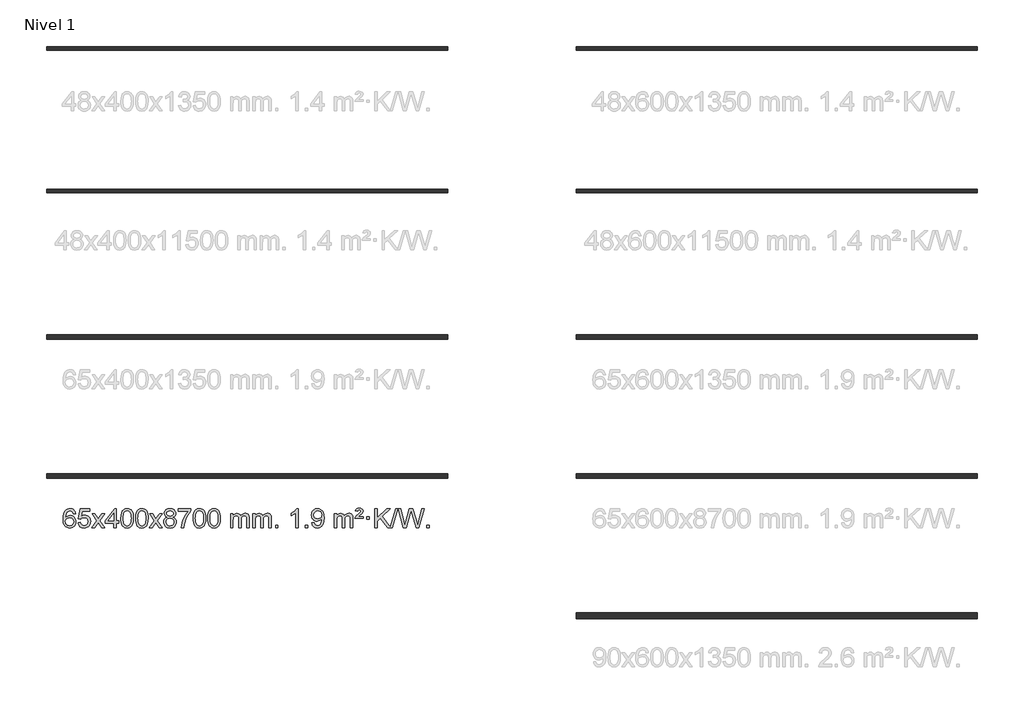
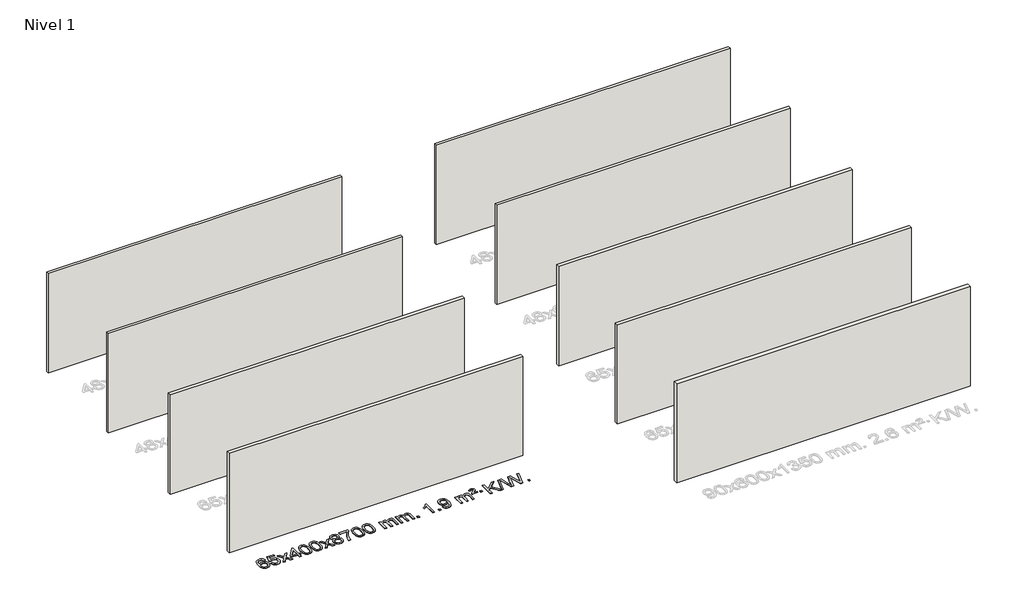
# One storey, part 1 of 10: 9 walls, 1 proxy.
"""IFC4 building model written with IfcOpenShell, lengths in millimetres."""

import ifcopenshell
import ifcopenshell.guid

model = None  # the IFC model being written
_history = None  # IfcOwnerHistory: only IFC2X3 demands one
_inside = {}  # id of a spatial element -> (the spatial element, [elements in it])
_under = {}  # id of a project, library or spatial element -> (it, [spatial elements below it])
_declared = {}  # id of a project -> (the project, [libraries it declares])
_typed = {}  # id of a type object -> (the type object, [elements of that type])
_made_of = {}  # id of a material, layer set ... -> (it, [elements and type objects made of it])


def new_model(schema):
    """Start an empty IFC model of exactly this schema.

    Asked for "IFC4X3", IfcOpenShell would pick the latest addendum, in which some entities
    have other attributes; the version numbers below select the first issue.
    IFC2X3 requires an IfcOwnerHistory on every rooted entity: one is made here for all.
    """
    global model, _history
    if schema == "IFC4X3":
        model = ifcopenshell.file(schema_version=(4, 3, 0, 0))
    else:
        model = ifcopenshell.file(schema=schema)
    _inside.clear()
    _under.clear()
    _declared.clear()
    _typed.clear()
    _made_of.clear()
    _history = None
    if model.schema == "IFC2X3":
        org = make("IfcOrganization", Name="unknown")
        user = make(
            "IfcPersonAndOrganization",
            ThePerson=make("IfcPerson", FamilyName="unknown"),
            TheOrganization=org,
        )
        app = make(
            "IfcApplication",
            ApplicationDeveloper=org,
            Version="unknown",
            ApplicationFullName="unknown",
            ApplicationIdentifier="unknown",
        )
        _history = make(
            "IfcOwnerHistory",
            OwningUser=user,
            OwningApplication=app,
            ChangeAction="ADDED",
            CreationDate=0,
        )
    return model


def make(cls, **values):
    """One entity of the class cls with the attributes given. An attribute that is None is left unset."""
    return model.create_entity(
        cls, **{name: value for name, value in values.items() if value is not None}
    )


def rooted(cls, **values):
    """An entity with a GlobalId (a new one), such as an element, a storey or a relation."""
    return make(cls, GlobalId=ifcopenshell.guid.new(), OwnerHistory=_history, **values)


def si_unit(unit_type, name, prefix=None):
    """IfcSIUnit, for example si_unit("LENGTHUNIT", "METRE", prefix="MILLI")."""
    return make("IfcSIUnit", UnitType=unit_type, Prefix=prefix, Name=name)


def assignment(units):
    """IfcUnitAssignment: the units of a project."""
    return None if units is None else make("IfcUnitAssignment", Units=units)


def point(xyz):
    """IfcCartesianPoint."""
    return None if xyz is None else make("IfcCartesianPoint", Coordinates=xyz)


def direction(xyz):
    """IfcDirection."""
    return None if xyz is None else make("IfcDirection", DirectionRatios=xyz)


def frame(location, z_axis=None, x_axis=None):
    """IfcAxis2Placement3D, a coordinate frame: its origin and axes. An axis left out is left unset."""
    return make(
        "IfcAxis2Placement3D",
        Location=point(location),
        Axis=direction(z_axis),
        RefDirection=direction(x_axis),
    )


def origin():
    """The frame at (0, 0, 0) with its axes left unset."""
    return frame((0.0, 0.0, 0.0))


def origin_with_axes():
    """The frame at (0, 0, 0) with the z axis (0, 0, 1) and the x axis (1, 0, 0) written out."""
    return frame((0.0, 0.0, 0.0), z_axis=(0.0, 0.0, 1.0), x_axis=(1.0, 0.0, 0.0))


def place(relative_to, where):
    """IfcLocalPlacement: puts the frame where relative to a parent placement (None: the world)."""
    return make(
        "IfcLocalPlacement", PlacementRelTo=relative_to, RelativePlacement=where
    )


def context(
    kind, dimensions, precision=None, world=None, true_north=None, identifier=None
):
    """IfcGeometricRepresentationContext, for example the 3D "Model" context."""
    return make(
        "IfcGeometricRepresentationContext",
        ContextIdentifier=identifier,
        ContextType=kind,
        CoordinateSpaceDimension=dimensions,
        Precision=precision,
        WorldCoordinateSystem=world,
        TrueNorth=true_north,
    )


def project(units=None, contexts=None):
    """IfcProject with its units and contexts."""
    return rooted(
        "IfcProject",
        Name="project",
        RepresentationContexts=contexts,
        UnitsInContext=assignment(units),
    )


def spatial(cls, under=None, at=None, **own):
    """A site, building, storey or space (cls), placed at a placement, below another one or the project."""
    s = rooted(cls, ObjectPlacement=at, **own)
    if under is not None:
        _under.setdefault(under.id(), (under, []))[1].append(s)
    return s


def polyline(points):
    """IfcPolyline through the points."""
    return make("IfcPolyline", Points=[point(p) for p in points])


def outline(outer, holes=None, kind="AREA"):
    """IfcArbitraryClosedProfileDef: a profile drawn as a closed curve; with holes, ...WithVoids."""
    if holes is None:
        return make("IfcArbitraryClosedProfileDef", ProfileType=kind, OuterCurve=outer)
    return make(
        "IfcArbitraryProfileDefWithVoids",
        ProfileType=kind,
        OuterCurve=outer,
        InnerCurves=holes,
    )


def extrude(swept, where, along, depth):
    """IfcExtrudedAreaSolid: the profile swept, set in the frame where, extruded along a direction by depth."""
    return make(
        "IfcExtrudedAreaSolid",
        SweptArea=swept,
        Position=where,
        ExtrudedDirection=direction(along),
        Depth=depth,
    )


def shape(context_of_items, identifier, shape_type, items):
    """IfcShapeRepresentation: the items that make up one representation, for example the "Body"."""
    return make(
        "IfcShapeRepresentation",
        ContextOfItems=context_of_items,
        RepresentationIdentifier=identifier,
        RepresentationType=shape_type,
        Items=items,
    )


def made_of(thing, what):
    """Note that an element or type object is made of a material, layer set ...; save() writes the relation."""
    if what is not None:
        _made_of.setdefault(what.id(), (what, []))[1].append(thing)
    return thing


def element(
    cls,
    number,
    at=None,
    inside=None,
    cuts=None,
    type_object=None,
    material=None,
    context=None,
    identifier="Body",
    shape_type=None,
    held_by="IfcProductDefinitionShape",
    body=None,
    shapes=None,
    **own,
):
    """One element of the class cls, such as IfcWall. Its Tag is "e" and its number.

    at: its placement. inside: the storey or other place that contains it. cuts: it is an
    opening in that element (IfcRelVoidsElement). A single representation is given by context,
    identifier, shape_type and body (its items); several are given by shapes. held_by: the class
    of the entity that holds the representations. save() writes the other relations.
    """
    e = rooted(cls, Tag="e%d" % number, ObjectPlacement=at, **own)
    if body is not None:
        shapes = [shape(context, identifier, shape_type, body)]
    if shapes is not None:
        e.Representation = make(held_by, Representations=shapes)
    if inside is not None:
        _inside.setdefault(inside.id(), (inside, []))[1].append(e)
    if cuts is not None:
        rooted(
            "IfcRelVoidsElement", RelatingBuildingElement=cuts, RelatedOpeningElement=e
        )
    if type_object is not None:
        _typed.setdefault(type_object.id(), (type_object, []))[1].append(e)
    return made_of(e, material)


def aggregate(whole, parts):
    """IfcRelAggregates: a whole, such as a stair, and the parts it consists of."""
    return rooted("IfcRelAggregates", RelatingObject=whole, RelatedObjects=parts)


def save(model, path):
    """Write the relations noted so far, then the file.

    IfcRelAggregates (storeys below a building ...), IfcRelContainedInSpatialStructure (elements
    in a storey), IfcRelDefinesByType, IfcRelAssociatesMaterial and IfcRelDeclares: one each for
    every whole, place, type object, material and project.
    """
    for whole, parts in _under.values():
        aggregate(whole, parts)
    for where, things in _inside.values():
        rooted(
            "IfcRelContainedInSpatialStructure",
            RelatedElements=things,
            RelatingStructure=where,
        )
    for kind, things in _typed.values():
        rooted("IfcRelDefinesByType", RelatedObjects=things, RelatingType=kind)
    for what, things in _made_of.values():
        rooted("IfcRelAssociatesMaterial", RelatedObjects=things, RelatingMaterial=what)
    for by, libraries in _declared.values():
        rooted("IfcRelDeclares", RelatingContext=by, RelatedDefinitions=libraries)
    model.write(path)


model = new_model("IFC4")

# Units and contexts
model_context = context("Model", 3, world=origin())
ifc_project = project(units=[si_unit("LENGTHUNIT", "METRE", prefix="MILLI")], contexts=[model_context])

# Site, building, storey
site = spatial("IfcSite", under=ifc_project)
building = spatial("IfcBuilding", under=site)
storey = spatial("IfcBuildingStorey", under=building, Name="Nivel 1", Elevation=0.0)

# Proxy
placement = place(None, origin())
element("IfcBuildingElementProxy", 1, Name="Texto de modelo 1", ObjectType="Texto de modelo 1", at=placement, inside=storey, context=model_context, shape_type="SweptSolid", body=[
    extrude(outline(polyline([(-24968.7310862, 6007.5109581), (-25018.9592412, 6001.2324387), (-25027.0526451, 6026.125787), (-25037.9910031, 6043.1219352), (-25060.7751614, 6058.7937082), (-25088.3172601, 6064.0176325), (-25111.665504, 6060.9764747), (-25133.6403219, 6051.8530012), (-25152.5126682, 6032.6372983), (-25167.9269238, 6006.1865829), (-25178.3379843, 5968.772984), (-25182.2007452, 5916.6686307), (-25162.0530746, 5940.1762902), (-25137.907753, 5956.7432427), (-25111.113681, 5966.565692), (-25083.0197593, 5969.8398418), (-25058.8867005, 5967.601893), (-25036.617577, 5960.8880466), (-25016.212389, 5949.6983025), (-24997.6711365, 5934.0326609), (-24982.2630122, 5914.8230894), (-24971.2572092, 5893.0015557), (-24964.6537274, 5868.5680599), (-24962.4525668, 5841.5226018), (-24966.5973706, 5805.5560055), (-24979.031782, 5772.213634), (-24998.7257315, 5743.9357713), (-25024.6491494, 5723.1627013), (-25055.6248134, 5710.397196), (-25090.4755011, 5706.1420276), (-25120.4180298, 5708.9624563), (-25147.4604222, 5717.4237421), (-25171.6026781, 5731.5258853), (-25192.8447976, 5751.2688857), (-25210.1628426, 5777.4866092), (-25222.5328746, 5811.0129217), (-25229.9548939, 5851.8478232), (-25232.4289003, 5899.9913136), (-25229.6820481, 5953.9657337), (-25221.4414914, 6000.0306908), (-25207.7072302, 6038.1861851), (-25188.4792646, 6068.4322165), (-25167.6387496, 6088.4756538), (-25143.4750339, 6102.7923948), (-25115.9881175, 6111.3824394), (-25085.1780004, 6114.2457876), (-25062.0443542, 6112.4738227), (-25041.1057374, 6107.1579278), (-25022.3621497, 6098.2981031), (-25005.8135913, 6085.8943485), (-24991.9076519, 6070.3635969), (-24981.0919212, 6052.1227814), (-24973.3663993, 6031.1719017), (-24968.7310862, 6007.5109581)]), holes=[polyline([(-25182.2007452, 5842.3074168), (-25179.2944775, 5820.0505561), (-25170.5756742, 5798.7992395), (-25157.0376168, 5780.527767), (-25139.6735866, 5767.2104388), (-25118.7165756, 5759.0802467), (-25094.3995757, 5756.3701827), (-25061.253408, 5761.9865145), (-25047.3382715, 5769.0069292), (-25035.1951, 5778.8355099), (-25025.3450595, 5791.0737176), (-25018.3093164, 5805.3230135), (-25012.6807219, 5839.8548701), (-25018.23574, 5873.0010379), (-25025.1795126, 5886.6218688), (-25034.9007944, 5898.274531), (-25047.0807541, 5907.6095366), (-25061.4005608, 5914.2773978), (-25096.4597149, 5919.6116867), (-25129.5568317, 5914.2773978), (-25157.2338205, 5898.274531), (-25168.1568501, 5886.7751529), (-25175.9590141, 5873.6141746), (-25180.6403124, 5858.7915958), (-25182.2007452, 5842.3074168)])]), origin_with_axes(), (0.0, 0.0, 1.0), 10.0),
    extrude(outline(polyline([(-24918.5029311, 5819.1553765), (-24868.274776, 5825.4338959), (-24859.0532007, 5795.2798351), (-24842.9644948, 5773.6851619), (-24820.0822347, 5760.6989275), (-24790.4799968, 5756.3701827), (-24771.350133, 5757.8754332), (-24754.4766122, 5762.3911847), (-24739.8594342, 5769.9174372), (-24727.4985992, 5780.4541906), (-24717.6700186, 5793.480279), (-24710.6496038, 5808.4745359), (-24705.033272, 5844.3675559), (-24710.2939846, 5878.1636486), (-24716.8698752, 5892.0818507), (-24726.0761222, 5904.0134901), (-24737.9433822, 5913.5845533), (-24752.5023121, 5920.4210271), (-24789.6951819, 5925.8902061), (-24814.0612327, 5923.7074396), (-24833.7919703, 5917.1591401), (-24849.5495825, 5907.1282243), (-24861.9962566, 5894.4976092), (-24912.2244117, 5900.7761285), (-24868.274776, 6107.9672682), (-24673.6406751, 6107.9672682), (-24673.6406751, 6057.7391131), (-24827.6606038, 6057.7391131), (-24849.1449123, 5947.080209), (-24831.4191315, 5959.7844006), (-24813.264155, 5968.8588231), (-24794.6799829, 5974.3034766), (-24775.6666151, 5976.1183612), (-24751.2055281, 5973.8681496), (-24728.7371353, 5967.117515), (-24708.2614365, 5955.8664573), (-24689.778432, 5940.1149766), (-24674.4776066, 5920.8256973), (-24663.5484457, 5898.961244), (-24656.9909491, 5874.5216168), (-24654.805117, 5847.5068156), (-24656.7732856, 5821.4852958), (-24662.6777917, 5797.2786606), (-24672.518635, 5774.8869098), (-24686.2958157, 5754.3100435), (-24707.1669876, 5733.2365366), (-24731.5207757, 5718.1840316), (-24759.35718, 5709.1525286), (-24790.6762005, 5706.1420276), (-24816.5965528, 5708.0764738), (-24840.0091761, 5713.8798123), (-24860.9140704, 5723.552043), (-24879.3112359, 5737.0931662), (-24894.6181926, 5753.8287312), (-24906.2524607, 5773.084288), (-24914.2140402, 5794.8598364), (-24918.5029311, 5819.1553765)])), origin_with_axes(), (0.0, 0.0, 1.0), 10.0),
    extrude(outline(polyline([(-24629.6910394, 5712.420547), (-24522.3675987, 5860.7505675), (-24623.41252, 6007.5109581), (-24562.981771, 6007.5109581), (-24514.2251439, 5936.877615), (-24491.4655111, 5903.5229808), (-24471.7470362, 5930.7952993), (-24416.2213804, 6007.5109581), (-24355.7906313, 6007.5109581), (-24461.9368496, 5860.7505675), (-24359.7147059, 5712.420547), (-24420.145455, 5712.420547), (-24481.6553246, 5801.5951426), (-24492.9370391, 5817.8800523), (-24569.2602903, 5712.420547), (-24629.6910394, 5712.420547)])), origin_with_axes(), (0.0, 0.0, 1.0), 10.0),
    extrude(outline(polyline([(-24165.080605, 5712.420547), (-24165.080605, 5806.5983378), (-24347.1576671, 5806.5983378), (-24347.1576671, 5856.8264928), (-24152.5235662, 6107.9672682), (-24114.8524499, 6107.9672682), (-24114.8524499, 5856.8264928), (-24064.6242948, 5856.8264928), (-24064.6242948, 5806.5983378), (-24114.8524499, 5806.5983378), (-24114.8524499, 5712.420547), (-24165.080605, 5712.420547)]), holes=[polyline([(-24165.080605, 5856.8264928), (-24165.080605, 6012.0236439), (-24285.3534919, 5856.8264928), (-24165.080605, 5856.8264928)])]), origin_with_axes(), (0.0, 0.0, 1.0), 10.0),
    extrude(outline(polyline([(-24020.6746591, 5910.0958057), (-24016.9835765, 5974.4138412), (-24005.9103284, 6025.7088541), (-23987.5652796, 6064.7656593), (-23975.7072166, 6079.9990395), (-23962.0587946, 6092.3690716), (-23946.5740283, 6101.9401349), (-23929.2069324, 6108.7766086), (-23888.8257521, 6114.2457876), (-23857.8746135, 6111.008426), (-23830.1608366, 6101.2963414), (-23806.9842709, 6085.4896783), (-23789.6447662, 6063.9685816), (-23776.5481671, 6036.9169922), (-23766.1003185, 6004.5188512), (-23759.2577134, 5963.3773814), (-23756.976845, 5910.0958057), (-23760.6311395, 5846.1456523), (-23771.5940229, 5794.9732667), (-23789.8287072, 5755.8796734), (-23801.659179, 5740.6003078), (-23815.298404, 5728.1658964), (-23830.8015644, 5718.5304538), (-23848.2238425, 5711.6479948), (-23888.8257521, 5706.1420276), (-23916.4904781, 5708.5332606), (-23941.0159444, 5715.7069595), (-23962.4021511, 5727.6631243), (-23980.6490981, 5744.4017551), (-23998.160281, 5774.6600492), (-24010.6682689, 5812.3618224), (-24018.1730616, 5857.5070745), (-24020.6746591, 5910.0958057)]), holes=[polyline([(-23970.4465041, 5910.1939076), (-23968.9749761, 5866.5293805), (-23964.5603921, 5831.1851178), (-23957.2027522, 5804.1611196), (-23946.9020564, 5785.4573858), (-23934.4431195, 5772.7317344), (-23920.6107564, 5763.6419835), (-23905.4049673, 5758.1881329), (-23888.8257521, 5756.3701827), (-23872.2465368, 5758.1942643), (-23857.0407477, 5763.6665089), (-23843.2083847, 5772.7869167), (-23830.7494478, 5785.5554876), (-23820.4487519, 5804.2898783), (-23813.091112, 5831.3077451), (-23808.676528, 5866.6090882), (-23807.2050001, 5910.1939076), (-23808.6274771, 5952.7026722), (-23812.8949083, 5987.4246011), (-23820.0072935, 6014.3596945), (-23829.9646328, 6033.5079524), (-23842.2151033, 6046.8559375), (-23856.2068818, 6056.3902125), (-23871.9399685, 6062.1107775), (-23889.4143633, 6064.0176325), (-23905.9077394, 6062.3376381), (-23920.8560111, 6057.2976548), (-23934.2591785, 6048.8976825), (-23946.1172414, 6037.1377214), (-23956.7612938, 6016.291075), (-23964.3641884, 5988.1848906), (-23968.9259251, 5952.8191681), (-23970.4465041, 5910.1939076)])]), origin_with_axes(), (0.0, 0.0, 1.0), 10.0),
    extrude(outline(polyline([(-23713.0272093, 5910.0958057), (-23709.3361266, 5974.4138412), (-23698.2628786, 6025.7088541), (-23679.9178297, 6064.7656593), (-23668.0597668, 6079.9990395), (-23654.4113447, 6092.3690716), (-23638.9265784, 6101.9401349), (-23621.5594826, 6108.7766086), (-23581.1783022, 6114.2457876), (-23550.2271637, 6111.008426), (-23522.5133867, 6101.2963414), (-23499.336821, 6085.4896783), (-23481.9973163, 6063.9685816), (-23468.9007173, 6036.9169922), (-23458.4528686, 6004.5188512), (-23451.6102635, 5963.3773814), (-23449.3293952, 5910.0958057), (-23452.9836896, 5846.1456523), (-23463.9465731, 5794.9732667), (-23482.1812573, 5755.8796734), (-23494.0117292, 5740.6003078), (-23507.6509541, 5728.1658964), (-23523.1541145, 5718.5304538), (-23540.5763927, 5711.6479948), (-23581.1783022, 5706.1420276), (-23608.8430283, 5708.5332606), (-23633.3684946, 5715.7069595), (-23654.7547013, 5727.6631243), (-23673.0016482, 5744.4017551), (-23690.5128312, 5774.6600492), (-23703.020819, 5812.3618224), (-23710.5256117, 5857.5070745), (-23713.0272093, 5910.0958057)]), holes=[polyline([(-23662.7990542, 5910.1939076), (-23661.3275262, 5866.5293805), (-23656.9129423, 5831.1851178), (-23649.5553024, 5804.1611196), (-23639.2546065, 5785.4573858), (-23626.7956696, 5772.7317344), (-23612.9633066, 5763.6419835), (-23597.7575175, 5758.1881329), (-23581.1783022, 5756.3701827), (-23564.599087, 5758.1942643), (-23549.3932978, 5763.6665089), (-23535.5609348, 5772.7869167), (-23523.1019979, 5785.5554876), (-23512.8013021, 5804.2898783), (-23505.4436622, 5831.3077451), (-23501.0290782, 5866.6090882), (-23499.5575502, 5910.1939076), (-23500.9800273, 5952.7026722), (-23505.2474584, 5987.4246011), (-23512.3598437, 6014.3596945), (-23522.317183, 6033.5079524), (-23534.5676534, 6046.8559375), (-23548.559432, 6056.3902125), (-23564.2925187, 6062.1107775), (-23581.7669134, 6064.0176325), (-23598.2602895, 6062.3376381), (-23613.2085613, 6057.2976548), (-23626.6117286, 6048.8976825), (-23638.4697916, 6037.1377214), (-23649.113844, 6016.291075), (-23656.7167386, 5988.1848906), (-23661.2784753, 5952.8191681), (-23662.7990542, 5910.1939076)])]), origin_with_axes(), (0.0, 0.0, 1.0), 10.0),
    extrude(outline(polyline([(-23424.2153176, 5712.420547), (-23316.8918769, 5860.7505675), (-23417.9367982, 6007.5109581), (-23357.5060492, 6007.5109581), (-23308.7494221, 5936.877615), (-23285.9897893, 5903.5229808), (-23266.2713144, 5930.7952993), (-23210.7456586, 6007.5109581), (-23150.3149095, 6007.5109581), (-23256.4611278, 5860.7505675), (-23154.2389841, 5712.420547), (-23214.6697332, 5712.420547), (-23276.1796028, 5801.5951426), (-23287.4613173, 5817.8800523), (-23363.7845685, 5712.420547), (-23424.2153176, 5712.420547)])), origin_with_axes(), (0.0, 0.0, 1.0), 10.0),
    extrude(outline(polyline([(-23049.6623956, 5933.7383553), (-23076.5545694, 5946.9821071), (-23095.4269158, 5964.9347485), (-23106.5737403, 5987.2283974), (-23110.2893484, 6013.4951719), (-23108.2659974, 6033.9800676), (-23102.1959445, 6052.7604435), (-23092.0791896, 6069.8362994), (-23077.9157328, 6085.2076355), (-23060.3861558, 6097.911827), (-23040.1710401, 6106.9862496), (-23017.2703859, 6112.4309031), (-22991.6841932, 6114.2457876), (-22965.9753731, 6112.3879835), (-22942.9030406, 6106.8145713), (-22922.4671958, 6097.5255509), (-22904.6678386, 6084.5209224), (-22890.2468644, 6068.8491494), (-22879.9461685, 6051.5586956), (-22873.765751, 6032.6495611), (-22871.7056118, 6012.1217457), (-22875.372169, 5986.7010999), (-22886.3718407, 5964.7875957), (-22904.8272541, 5946.9453189), (-22930.8610366, 5933.7383553), (-22899.9466863, 5917.8090649), (-22877.4445709, 5894.3504564), (-22863.7225725, 5864.4907011), (-22859.148573, 5829.3579705), (-22861.4171787, 5804.3052067), (-22868.2229956, 5781.3371074), (-22879.5660238, 5760.4536728), (-22895.4462632, 5741.6549029), (-22915.0298481, 5726.11802), (-22937.4829125, 5715.0202464), (-22962.8054565, 5708.3615823), (-22990.9974801, 5706.1420276), (-23019.1895037, 5708.3707794), (-23044.5120477, 5715.0570346), (-23066.9651121, 5726.2007934), (-23086.548697, 5741.8020557), (-23102.4289364, 5760.73265), (-23113.7719646, 5781.864405), (-23120.5777815, 5805.1973205), (-23122.8463872, 5830.7313967), (-23118.0884467, 5867.2252906), (-23103.8146253, 5897.2444614), (-23080.7606869, 5919.7588395), (-23049.6623956, 5933.7383553)]), holes=[polyline([(-23072.6182321, 5832.4972302), (-23070.5213047, 5813.2815274), (-23064.2305226, 5794.6789611), (-23052.6177143, 5778.4553651), (-23034.5547083, 5766.376573), (-23012.923247, 5758.8717803), (-22990.6050726, 5756.3701827), (-22956.4165726, 5761.6308952), (-22942.5228959, 5768.2067859), (-22930.7629348, 5777.4130328), (-22914.7232798, 5801.3130998), (-22909.3767281, 5830.9276004), (-22914.894958, 5861.0448731), (-22931.4496478, 5885.4722375), (-22943.52844, 5894.9145421), (-22957.6918968, 5901.6590453), (-22992.2728044, 5907.0546479), (-23025.9830578, 5901.7326217), (-23039.7203847, 5895.080089), (-23051.3791782, 5885.7665431), (-23067.3084686, 5861.8051625), (-23072.6182321, 5832.4972302)]), polyline([(-23060.0611933, 6012.0236439), (-23055.6098212, 5990.097877), (-23042.2557048, 5972.586694), (-23020.3912515, 5961.1087757), (-22990.4088689, 5957.282803), (-22961.1254621, 5961.0842503), (-22939.5921026, 5972.4885921), (-22926.3483508, 5989.4111639), (-22921.9337669, 6009.767301), (-22926.4955036, 6030.8959902), (-22940.1807138, 6048.370385), (-22962.0083789, 6060.1058206), (-22990.9974801, 6064.0176325), (-23020.1705223, 6060.1916598), (-23041.9613992, 6048.7137415), (-23055.5362448, 6031.8892716), (-23060.0611933, 6012.0236439)])]), origin_with_axes(), (0.0, 0.0, 1.0), 10.0),
    extrude(outline(polyline([(-22815.1989373, 6057.7391131), (-22815.1989373, 6107.9672682), (-22551.5011232, 6107.9672682), (-22551.5011232, 6067.353096), (-22589.0864004, 6019.785954), (-22626.3037956, 5959.2938912), (-22659.1311323, 5891.3951377), (-22683.546234, 5821.6079232), (-22695.5146616, 5769.3932053), (-22702.1855884, 5712.420547), (-22752.4137435, 5712.420547), (-22746.9813527, 5764.1938065), (-22732.4500139, 5825.7282015), (-22709.2121345, 5890.9536793), (-22677.6601221, 5953.8001868), (-22640.8228716, 6010.6134296), (-22601.7292783, 6057.7391131), (-22815.1989373, 6057.7391131)])), origin_with_axes(), (0.0, 0.0, 1.0), 10.0),
    extrude(outline(polyline([(-22507.5514875, 5910.0958057), (-22503.8604048, 5974.4138412), (-22492.7871568, 6025.7088541), (-22474.4421079, 6064.7656593), (-22462.584045, 6079.9990395), (-22448.9356229, 6092.3690716), (-22433.4508566, 6101.9401349), (-22416.0837608, 6108.7766086), (-22375.7025804, 6114.2457876), (-22344.7514419, 6111.008426), (-22317.0376649, 6101.2963414), (-22293.8610992, 6085.4896783), (-22276.5215945, 6063.9685816), (-22263.4249955, 6036.9169922), (-22252.9771468, 6004.5188512), (-22246.1345417, 5963.3773814), (-22243.8536734, 5910.0958057), (-22247.5079679, 5846.1456523), (-22258.4708513, 5794.9732667), (-22276.7055355, 5755.8796734), (-22288.5360074, 5740.6003078), (-22302.1752323, 5728.1658964), (-22317.6783927, 5718.5304538), (-22335.1006709, 5711.6479948), (-22375.7025804, 5706.1420276), (-22403.3673065, 5708.5332606), (-22427.8927728, 5715.7069595), (-22449.2789795, 5727.6631243), (-22467.5259264, 5744.4017551), (-22485.0371094, 5774.6600492), (-22497.5450972, 5812.3618224), (-22505.0498899, 5857.5070745), (-22507.5514875, 5910.0958057)]), holes=[polyline([(-22457.3233324, 5910.1939076), (-22455.8518045, 5866.5293805), (-22451.4372205, 5831.1851178), (-22444.0795806, 5804.1611196), (-22433.7788847, 5785.4573858), (-22421.3199478, 5772.7317344), (-22407.4875848, 5763.6419835), (-22392.2817957, 5758.1881329), (-22375.7025804, 5756.3701827), (-22359.1233652, 5758.1942643), (-22343.9175761, 5763.6665089), (-22330.085213, 5772.7869167), (-22317.6262761, 5785.5554876), (-22307.3255803, 5804.2898783), (-22299.9679404, 5831.3077451), (-22295.5533564, 5866.6090882), (-22294.0818284, 5910.1939076), (-22295.5043055, 5952.7026722), (-22299.7717366, 5987.4246011), (-22306.8841219, 6014.3596945), (-22316.8414612, 6033.5079524), (-22329.0919316, 6046.8559375), (-22343.0837102, 6056.3902125), (-22358.8167969, 6062.1107775), (-22376.2911916, 6064.0176325), (-22392.7845677, 6062.3376381), (-22407.7328395, 6057.2976548), (-22421.1360068, 6048.8976825), (-22432.9940698, 6037.1377214), (-22443.6381222, 6016.291075), (-22451.2410168, 5988.1848906), (-22455.8027535, 5952.8191681), (-22457.3233324, 5910.1939076)])]), origin_with_axes(), (0.0, 0.0, 1.0), 10.0),
    extrude(outline(polyline([(-22199.9040377, 5910.0958057), (-22196.212955, 5974.4138412), (-22185.1397069, 6025.7088541), (-22166.7946581, 6064.7656593), (-22154.9365951, 6079.9990395), (-22141.2881731, 6092.3690716), (-22125.8034068, 6101.9401349), (-22108.4363109, 6108.7766086), (-22068.0551306, 6114.2457876), (-22037.1039921, 6111.008426), (-22009.3902151, 6101.2963414), (-21986.2136494, 6085.4896783), (-21968.8741447, 6063.9685816), (-21955.7775457, 6036.9169922), (-21945.329697, 6004.5188512), (-21938.4870919, 5963.3773814), (-21936.2062235, 5910.0958057), (-21939.860518, 5846.1456523), (-21950.8234015, 5794.9732667), (-21969.0580857, 5755.8796734), (-21980.8885575, 5740.6003078), (-21994.5277825, 5728.1658964), (-22010.0309429, 5718.5304538), (-22027.4532211, 5711.6479948), (-22068.0551306, 5706.1420276), (-22095.7198566, 5708.5332606), (-22120.245323, 5715.7069595), (-22141.6315296, 5727.6631243), (-22159.8784766, 5744.4017551), (-22177.3896596, 5774.6600492), (-22189.8976474, 5812.3618224), (-22197.4024401, 5857.5070745), (-22199.9040377, 5910.0958057)]), holes=[polyline([(-22149.6758826, 5910.1939076), (-22148.2043546, 5866.5293805), (-22143.7897707, 5831.1851178), (-22136.4321308, 5804.1611196), (-22126.1314349, 5785.4573858), (-22113.672498, 5772.7317344), (-22099.840135, 5763.6419835), (-22084.6343459, 5758.1881329), (-22068.0551306, 5756.3701827), (-22051.4759154, 5758.1942643), (-22036.2701262, 5763.6665089), (-22022.4377632, 5772.7869167), (-22009.9788263, 5785.5554876), (-21999.6781304, 5804.2898783), (-21992.3204905, 5831.3077451), (-21987.9059066, 5866.6090882), (-21986.4343786, 5910.1939076), (-21987.8568557, 5952.7026722), (-21992.1242868, 5987.4246011), (-21999.236672, 6014.3596945), (-22009.1940114, 6033.5079524), (-22021.4444818, 6046.8559375), (-22035.4362604, 6056.3902125), (-22051.169347, 6062.1107775), (-22068.6437418, 6064.0176325), (-22085.1371179, 6062.3376381), (-22100.0853897, 6057.2976548), (-22113.488557, 6048.8976825), (-22125.34662, 6037.1377214), (-22135.9906724, 6016.291075), (-22143.5935669, 5988.1848906), (-22148.1553037, 5952.8191681), (-22149.6758826, 5910.1939076)])]), origin_with_axes(), (0.0, 0.0, 1.0), 10.0),
    extrude(outline(polyline([(-21722.7365645, 5712.420547), (-21722.7365645, 6007.5109581), (-21672.5084094, 6007.5109581), (-21672.5084094, 5958.9505347), (-21657.4007221, 5981.2564463), (-21637.9765528, 5998.7308411), (-21614.8980889, 6010.0248184), (-21588.8275182, 6013.7894775), (-21560.8930121, 6009.951242), (-21538.5012613, 5998.4365355), (-21521.7748932, 5980.0056476), (-21510.8365352, 5955.4188676), (-21492.5282746, 5980.9560094), (-21471.64484, 5999.196825), (-21448.1862315, 6010.1413143), (-21422.1524489, 6013.7894775), (-21402.0446322, 6012.2719642), (-21384.3954935, 6007.7194245), (-21369.2050328, 6000.1318584), (-21356.4732501, 5989.5092658), (-21346.4086118, 5975.7290194), (-21339.2195845, 5958.6684918), (-21334.9061681, 5938.3276832), (-21333.4683626, 5914.7065934), (-21333.4683626, 5712.420547), (-21383.6965177, 5712.420547), (-21383.6965177, 5893.124183), (-21384.8614774, 5918.1769469), (-21388.3563563, 5935.0627305), (-21394.9046558, 5946.6264879), (-21405.2298772, 5955.7131732), (-21418.5104172, 5961.5992851), (-21433.9246728, 5963.5613224), (-21461.1356777, 5958.5336018), (-21483.318962, 5943.45044), (-21491.924335, 5931.8805512), (-21498.07103, 5917.2817674), (-21502.988386, 5878.9975144), (-21502.988386, 5712.420547), (-21553.2165411, 5712.420547), (-21553.2165411, 5898.7159894), (-21556.1228088, 5927.1164794), (-21564.8416121, 5947.3745146), (-21580.1822913, 5959.5146204), (-21602.9541868, 5963.5613224), (-21622.3047798, 5960.8635211), (-21640.1347938, 5952.7701172), (-21654.8500736, 5939.4773144), (-21664.8564639, 5921.1813165), (-21670.595423, 5895.7974589), (-21672.5084094, 5861.2410768), (-21672.5084094, 5712.420547), (-21722.7365645, 5712.420547)])), origin_with_axes(), (0.0, 0.0, 1.0), 10.0),
    extrude(outline(polyline([(-21258.12613, 5712.420547), (-21258.12613, 6007.5109581), (-21207.8979749, 6007.5109581), (-21207.8979749, 5958.9505347), (-21192.7902877, 5981.2564463), (-21173.3661183, 5998.7308411), (-21150.2876545, 6010.0248184), (-21124.2170838, 6013.7894775), (-21096.2825776, 6009.951242), (-21073.8908268, 5998.4365355), (-21057.1644588, 5980.0056476), (-21046.2261008, 5955.4188676), (-21027.9178402, 5980.9560094), (-21007.0344056, 5999.196825), (-20983.575797, 6010.1413143), (-20957.5420145, 6013.7894775), (-20937.4341978, 6012.2719642), (-20919.7850591, 6007.7194245), (-20904.5945983, 6000.1318584), (-20891.8628156, 5989.5092658), (-20881.7981774, 5975.7290194), (-20874.6091501, 5958.6684918), (-20870.2957337, 5938.3276832), (-20868.8579282, 5914.7065934), (-20868.8579282, 5712.420547), (-20919.0860833, 5712.420547), (-20919.0860833, 5893.124183), (-20920.2510429, 5918.1769469), (-20923.7459219, 5935.0627305), (-20930.2942214, 5946.6264879), (-20940.6194427, 5955.7131732), (-20953.8999827, 5961.5992851), (-20969.3142383, 5963.5613224), (-20996.5252433, 5958.5336018), (-21018.7085276, 5943.45044), (-21027.3139006, 5931.8805512), (-21033.4605956, 5917.2817674), (-21038.3779516, 5878.9975144), (-21038.3779516, 5712.420547), (-21088.6061066, 5712.420547), (-21088.6061066, 5898.7159894), (-21091.5123744, 5927.1164794), (-21100.2311777, 5947.3745146), (-21115.5718569, 5959.5146204), (-21138.3437524, 5963.5613224), (-21157.6943453, 5960.8635211), (-21175.5243594, 5952.7701172), (-21190.2396392, 5939.4773144), (-21200.2460294, 5921.1813165), (-21205.9849886, 5895.7974589), (-21207.8979749, 5861.2410768), (-21207.8979749, 5712.420547), (-21258.12613, 5712.420547)])), origin_with_axes(), (0.0, 0.0, 1.0), 10.0),
    extrude(outline(polyline([(-20780.9586568, 5712.420547), (-20780.9586568, 5762.6487021), (-20730.7305017, 5762.6487021), (-20730.7305017, 5712.420547), (-20780.9586568, 5712.420547)])), origin_with_axes(), (0.0, 0.0, 1.0), 10.0),
    extrude(outline(polyline([(-20303.7911836, 5712.420547), (-20354.0193387, 5712.420547), (-20354.0193387, 6025.5617013), (-20374.9886124, 6008.6023413), (-20401.5987434, 5991.6675068), (-20454.4756488, 5966.3081746), (-20454.4756488, 6013.7894775), (-20415.0264362, 6035.2492605), (-20380.8501989, 6060.780271), (-20353.9089741, 6087.9299622), (-20336.1647992, 6114.2457876), (-20303.7911836, 6114.2457876), (-20303.7911836, 5712.420547)])), origin_with_axes(), (0.0, 0.0, 1.0), 10.0),
    extrude(outline(polyline([(-20159.3852378, 5712.420547), (-20159.3852378, 5762.6487021), (-20109.1570827, 5762.6487021), (-20109.1570827, 5712.420547), (-20159.3852378, 5712.420547)])), origin_with_axes(), (0.0, 0.0, 1.0), 10.0),
    extrude(outline(polyline([(-20021.2578113, 5812.8768572), (-19971.0296562, 5819.1553765), (-19962.445743, 5790.6445219), (-19948.4662272, 5771.2326153), (-19929.4344653, 5760.0857908), (-19905.6938139, 5756.3701827), (-19884.3934464, 5758.7614157), (-19865.0305907, 5765.9351146), (-19848.9418848, 5777.1064645), (-19837.4639665, 5791.4906505), (-19821.0319041, 5835.1459806), (-19815.5872505, 5863.5464706), (-19813.772366, 5893.4184886), (-19814.0666716, 5903.2286752), (-19831.46749, 5881.9896213), (-19854.2393855, 5865.1651514), (-19880.7391519, 5854.2022679), (-19909.3235829, 5850.5479735), (-19933.183796, 5852.7797909), (-19955.1248913, 5859.4752432), (-19975.1468689, 5870.6343304), (-19993.2497287, 5886.2570525), (-20008.2501171, 5905.5279376), (-20018.9646802, 5927.6315142), (-20025.3934181, 5952.5677821), (-20027.5363307, 5980.3367414), (-20025.2891848, 6009.031537), (-20018.5477473, 6034.7832766), (-20007.312018, 6057.5919603), (-19991.581997, 6077.4575881), (-19972.4674617, 6093.5524254), (-19951.0781894, 6105.0487377), (-19927.41418, 6111.9465251), (-19901.4754337, 6114.2457876), (-19864.0127838, 6108.9973378), (-19829.9101229, 6093.2519884), (-19801.3870055, 6067.7945543), (-19780.6629865, 6033.4098505), (-19768.044634, 5985.8794968), (-19763.8385165, 5920.9851128), (-19768.0323713, 5852.178917), (-19780.6139355, 5798.9954432), (-19801.4728447, 5759.0311958), (-19814.9649168, 5743.1049711), (-19830.4987341, 5729.882679), (-19847.7615967, 5719.496144), (-19866.440805, 5712.0771905), (-19908.0482587, 5706.1420276), (-19930.6055563, 5707.8925328), (-19950.9923502, 5713.1440483), (-19969.2086404, 5721.8965741), (-19985.2544267, 5734.1501102), (-19998.7250391, 5749.5735628), (-20009.2158073, 5767.8358382), (-20016.7267314, 5788.9369363), (-20021.2578113, 5812.8768572)]), holes=[polyline([(-19814.0666716, 5981.5139637), (-19819.4867997, 6015.555311), (-19826.2619598, 6029.6329287), (-19835.7471839, 6041.7485091), (-19847.4764882, 6051.4912506), (-19860.9838887, 6058.4503517), (-19893.3329788, 6064.0176325), (-19910.9422637, 6062.5185134), (-19926.8838168, 6058.021156), (-19941.1576382, 6050.5255604), (-19953.7637279, 6040.0317264), (-19964.0644238, 6027.1527909), (-19971.4220637, 6012.5018905), (-19975.8366476, 5996.0790251), (-19977.3081756, 5977.8841947), (-19971.7408948, 5946.8472171), (-19964.7817937, 5933.7291583), (-19955.0390522, 5922.2113861), (-19942.9173404, 5912.8334609), (-19928.8213287, 5906.1349429), (-19894.706405, 5900.7761285), (-19862.6148323, 5906.1349429), (-19836.7772535, 5922.2113861), (-19826.8413739, 5933.9560188), (-19819.7443171, 5947.7546593), (-19814.0666716, 5981.5139637)])]), origin_with_axes(), (0.0, 0.0, 1.0), 10.0),
    extrude(outline(polyline([(-19550.3688575, 5712.420547), (-19550.3688575, 6007.5109581), (-19500.1407024, 6007.5109581), (-19500.1407024, 5958.9505347), (-19485.0330151, 5981.2564463), (-19465.6088458, 5998.7308411), (-19442.530382, 6010.0248184), (-19416.4598112, 6013.7894775), (-19388.5253051, 6009.951242), (-19366.1335543, 5998.4365355), (-19349.4071862, 5980.0056476), (-19338.4688283, 5955.4188676), (-19320.1605676, 5980.9560094), (-19299.277133, 5999.196825), (-19275.8185245, 6010.1413143), (-19249.784742, 6013.7894775), (-19229.6769252, 6012.2719642), (-19212.0277865, 6007.7194245), (-19196.8373258, 6000.1318584), (-19184.1055431, 5989.5092658), (-19174.0409048, 5975.7290194), (-19166.8518775, 5958.6684918), (-19162.5384611, 5938.3276832), (-19161.1006556, 5914.7065934), (-19161.1006556, 5712.420547), (-19211.3288107, 5712.420547), (-19211.3288107, 5893.124183), (-19212.4937704, 5918.1769469), (-19215.9886493, 5935.0627305), (-19222.5369488, 5946.6264879), (-19232.8621702, 5955.7131732), (-19246.1427102, 5961.5992851), (-19261.5569658, 5963.5613224), (-19288.7679707, 5958.5336018), (-19310.951255, 5943.45044), (-19319.556628, 5931.8805512), (-19325.703323, 5917.2817674), (-19330.620679, 5878.9975144), (-19330.620679, 5712.420547), (-19380.8488341, 5712.420547), (-19380.8488341, 5898.7159894), (-19383.7551019, 5927.1164794), (-19392.4739051, 5947.3745146), (-19407.8145843, 5959.5146204), (-19430.5864798, 5963.5613224), (-19449.9370728, 5960.8635211), (-19467.7670868, 5952.7701172), (-19482.4823666, 5939.4773144), (-19492.4887569, 5921.1813165), (-19498.227716, 5895.7974589), (-19500.1407024, 5861.2410768), (-19500.1407024, 5712.420547), (-19550.3688575, 5712.420547)])), origin_with_axes(), (0.0, 0.0, 1.0), 10.0),
    extrude(outline(polyline([(-19117.15102, 5913.3331673), (-19113.3250472, 5929.1520931), (-19104.9863887, 5945.0200698), (-19083.4775547, 5970.1586728), (-19051.520872, 5997.8969753), (-19007.3750326, 6035.273786), (-19000.2381219, 6046.8007552), (-18997.8591517, 6058.6220299), (-18999.7476126, 6070.7130848), (-19005.4129953, 6080.4987459), (-19014.7817234, 6086.973469), (-19027.7802206, 6089.1317101), (-19040.214632, 6087.5130293), (-19049.0683254, 6082.656987), (-19055.4939976, 6073.1901569), (-19060.6443455, 6057.7391131), (-19110.8725006, 6064.0176325), (-19100.0322444, 6089.2298119), (-19083.4039783, 6106.7900458), (-19059.6388014, 6117.0907417), (-19027.3878131, 6120.524307), (-18991.6051577, 6116.3917659), (-18966.8589622, 6103.9941427), (-18952.437988, 6085.6613566), (-18947.6309966, 6063.7233269), (-18951.7267495, 6040.8165414), (-18964.0140081, 6019.1850801), (-18984.5418234, 5999.3685032), (-19021.0111919, 5971.3113697), (-19046.6157787, 5944.7257642), (-18947.6309966, 5944.7257642), (-18947.6309966, 5913.3331673), (-19117.15102, 5913.3331673)])), origin_with_axes(), (0.0, 0.0, 1.0), 10.0),
    extrude(outline(polyline([(-18872.288764, 5888.2190898), (-18872.288764, 5938.4472448), (-18822.0606089, 5938.4472448), (-18822.0606089, 5888.2190898), (-18872.288764, 5888.2190898)])), origin_with_axes(), (0.0, 0.0, 1.0), 10.0),
    extrude(outline(polyline([(-18431.4189809, 5712.420547), (-18584.8502984, 5915.0990009), (-18652.5405855, 5850.5479735), (-18652.5405855, 5712.420547), (-18702.7687406, 5712.420547), (-18702.7687406, 6114.2457876), (-18652.5405855, 6114.2457876), (-18652.5405855, 5917.5515475), (-18446.5266682, 6114.2457876), (-18376.2857326, 6114.2457876), (-18549.2393213, 5949.0422463), (-18374.5857114, 5718.4650668), (-18263.2723837, 6114.2457876), (-18217.9493219, 6114.2457876), (-18330.9626708, 5712.420547), (-18370.0072132, 5712.420547), (-18376.2857326, 5712.420547), (-18431.4189809, 5712.420547)])), origin_with_axes(), (0.0, 0.0, 1.0), 10.0),
    extrude(outline(polyline([(-18103.464445, 5712.420547), (-18213.0442286, 6114.2457876), (-18161.2464437, 6114.2457876), (-18097.6764349, 5850.155566), (-18078.0560618, 5768.6329159), (-18057.0622627, 5840.7377869), (-17977.403548, 6114.2457876), (-17902.7480284, 6114.2457876), (-17844.8679278, 5915.9819177), (-17820.0726814, 5842.4055186), (-17801.8012089, 5768.6329159), (-17782.7694471, 5847.8011212), (-17718.6108271, 6114.2457876), (-17666.8130422, 6114.2457876), (-17776.4909277, 5712.420547), (-17830.152648, 5712.420547), (-17926.4886798, 6022.4224416), (-17939.9286354, 6065.6853642), (-17955.0363227, 6013.5932737), (-18042.8374922, 5712.420547), (-18103.464445, 5712.420547)])), origin_with_axes(), (0.0, 0.0, 1.0), 10.0),
    extrude(outline(polyline([(-17610.3063677, 5712.420547), (-17610.3063677, 5762.6487021), (-17560.0782126, 5762.6487021), (-17560.0782126, 5712.420547), (-17610.3063677, 5712.420547)])), origin_with_axes(), (0.0, 0.0, 1.0), 10.0),
])

# Walls
element("IfcWall", 2, ObjectType="Tabique de placas de yeso laminado con estructura metálica autoportante y relleno intermedio de lana mineral Ursa Terra FIT 34 11500x400x48 mm.", at=placement, inside=storey, context=model_context, shape_type="SweptSolid", body=[
    extrude(outline(polyline([(-17177.4179983, 12724.4579509), (-25577.4179983, 12724.4579509), (-25577.4179983, 12802.4579509), (-17177.4179983, 12802.4579509), (-17177.4179983, 12724.4579509)])), origin_with_axes(), (0.0, 0.0, 1.0), 3000.0),
])
element("IfcWall", 3, ObjectType="Tabique de placas de yeso laminado con estructura metálica autoportante y relleno intermedio de lana mineral Ursa Terra FIT 34 1350x400x65 mm.", at=placement, inside=storey, context=model_context, shape_type="SweptSolid", body=[
    extrude(outline(polyline([(-17177.4179983, 9657.4579509), (-25577.4179983, 9657.4579509), (-25577.4179983, 9757.4579509), (-17177.4179983, 9757.4579509), (-17177.4179983, 9657.4579509)])), origin_with_axes(), (0.0, 0.0, 1.0), 3000.0),
])
element("IfcWall", 4, ObjectType="Tabique de placas de yeso laminado con estructura metálica autoportante y relleno intermedio de lana mineral Ursa Terra FIT 34 1350x400x48 mm.", at=placement, inside=storey, context=model_context, shape_type="SweptSolid", body=[
    extrude(outline(polyline([(-17177.4179983, 15713.4953548), (-25577.4179983, 15713.4953548), (-25577.4179983, 15791.4953548), (-17177.4179983, 15791.4953548), (-17177.4179983, 15713.4953548)])), origin_with_axes(), (0.0, 0.0, 1.0), 3000.0),
])
element("IfcWall", 5, ObjectType="Tabique de placas de yeso laminado con estructura metálica autoportante y relleno intermedio de lana mineral Ursa Terra FIT 34 11500x600x48 mm.", at=placement, inside=storey, context=model_context, shape_type="SweptSolid", body=[
    extrude(outline(polyline([(-6077.4179983, 12724.4579509), (-14477.4179983, 12724.4579509), (-14477.4179983, 12802.4579509), (-6077.4179983, 12802.4579509), (-6077.4179983, 12724.4579509)])), origin_with_axes(), (0.0, 0.0, 1.0), 3000.0),
])
element("IfcWall", 6, ObjectType="Tabique de placas de yeso laminado con estructura metálica autoportante y relleno intermedio de lana mineral Ursa Terra FIT 34 1350x600x65 mm.", at=placement, inside=storey, context=model_context, shape_type="SweptSolid", body=[
    extrude(outline(polyline([(-6077.4179983, 9657.4579509), (-14477.4179983, 9657.4579509), (-14477.4179983, 9757.4579509), (-6077.4179983, 9757.4579509), (-6077.4179983, 9657.4579509)])), origin_with_axes(), (0.0, 0.0, 1.0), 3000.0),
])
element("IfcWall", 7, ObjectType="Tabique de placas de yeso laminado con estructura metálica autoportante y relleno intermedio de lana mineral Ursa Terra FIT 34 1350x600x48 mm.", at=placement, inside=storey, context=model_context, shape_type="SweptSolid", body=[
    extrude(outline(polyline([(-6077.4179983, 15713.4953548), (-14477.4179983, 15713.4953548), (-14477.4179983, 15791.4953548), (-6077.4179983, 15791.4953548), (-6077.4179983, 15713.4953548)])), origin_with_axes(), (0.0, 0.0, 1.0), 3000.0),
])
element("IfcWall", 8, ObjectType="Tabique de placas de yeso laminado con estructura metálica autoportante y relleno intermedio de lana mineral Ursa Terra FIT 34 8700x400x65 mm.", at=placement, inside=storey, context=model_context, shape_type="SweptSolid", body=[
    extrude(outline(polyline([(-17177.4179983, 6746.420547), (-25577.4179983, 6746.420547), (-25577.4179983, 6846.420547), (-17177.4179983, 6846.420547), (-17177.4179983, 6746.420547)])), origin_with_axes(), (0.0, 0.0, 1.0), 3000.0),
])
element("IfcWall", 9, ObjectType="Tabique de placas de yeso laminado con estructura metálica autoportante y relleno intermedio de lana mineral Ursa Terra FIT 34 8700x600x65 mm.", at=placement, inside=storey, context=model_context, shape_type="SweptSolid", body=[
    extrude(outline(polyline([(-6077.4179983, 6746.420547), (-14477.4179983, 6746.420547), (-14477.4179983, 6846.420547), (-6077.4179983, 6846.420547), (-6077.4179983, 6746.420547)])), origin_with_axes(), (0.0, 0.0, 1.0), 3000.0),
])
element("IfcWall", 10, ObjectType="Tabique de placas de yeso laminado con estructura metálica autoportante y relleno intermedio de lana mineral Ursa Terra FIT 34. 1350x600x90 mm.", at=placement, inside=storey, context=model_context, shape_type="SweptSolid", body=[
    extrude(outline(polyline([(-6077.4179983, 3810.3831431), (-14477.4179983, 3810.3831431), (-14477.4179983, 3935.3831431), (-6077.4179983, 3935.3831431), (-6077.4179983, 3810.3831431)])), origin_with_axes(), (0.0, 0.0, 1.0), 3000.0),
])

save(model, "model.ifc")
